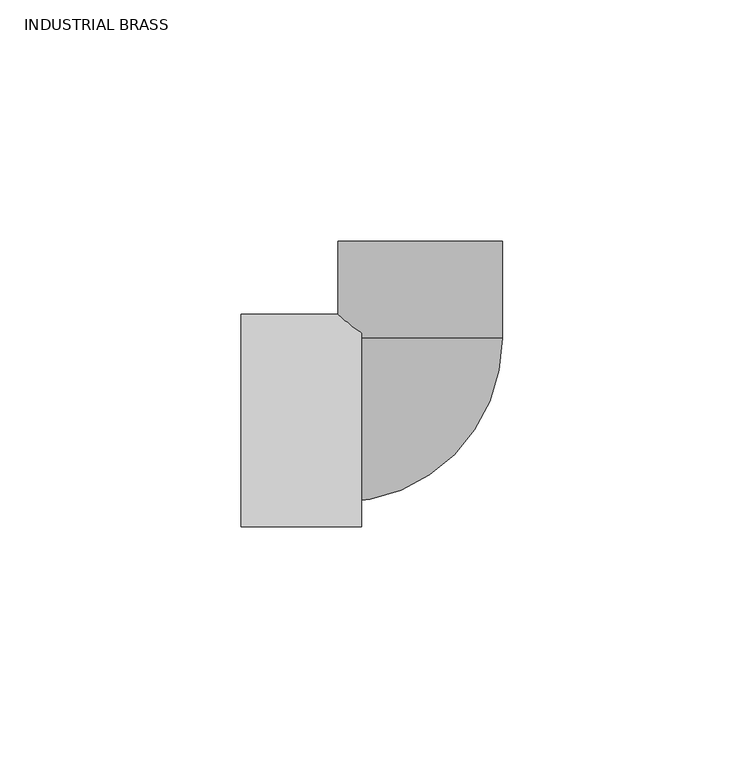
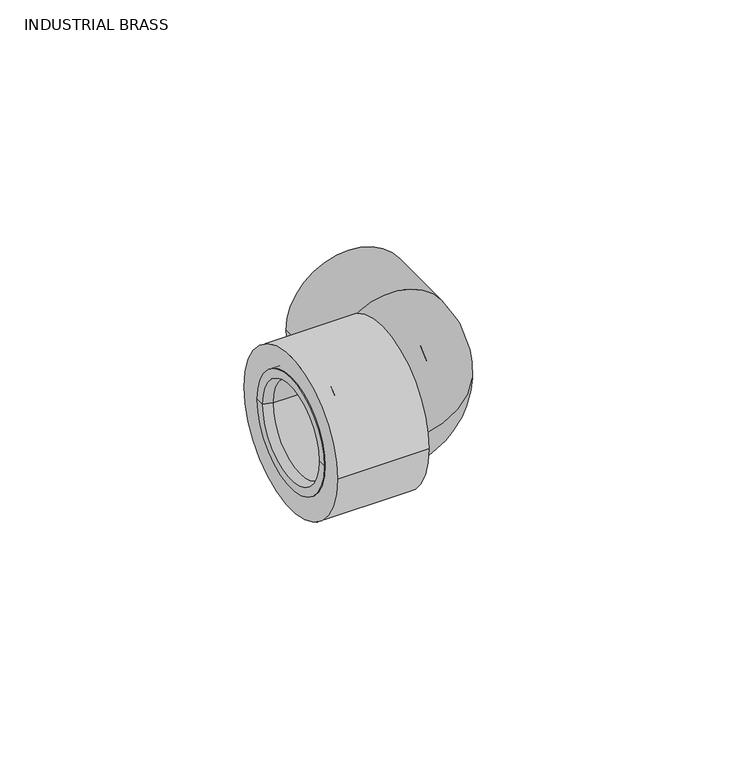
"""IFC4 building model written with IfcOpenShell, lengths in millimetres: valve geometry, Aquatherm - Elbow Transition PPR to F NPT : INDUSTRIAL BRASS."""

import ifcopenshell
import ifcopenshell.guid

model = None  # the IFC model being written
_history = None  # IfcOwnerHistory: only IFC2X3 demands one
_inside = {}  # id of a spatial element -> (the spatial element, [elements in it])
_under = {}  # id of a project, library or spatial element -> (it, [spatial elements below it])
_declared = {}  # id of a project -> (the project, [libraries it declares])
_typed = {}  # id of a type object -> (the type object, [elements of that type])
_made_of = {}  # id of a material, layer set ... -> (it, [elements and type objects made of it])


def new_model(schema):
    """Start an empty IFC model of exactly this schema.

    Asked for "IFC4X3", IfcOpenShell would pick the latest addendum, in which some entities
    have other attributes; the version numbers below select the first issue.
    IFC2X3 requires an IfcOwnerHistory on every rooted entity: one is made here for all.
    """
    global model, _history
    if schema == "IFC4X3":
        model = ifcopenshell.file(schema_version=(4, 3, 0, 0))
    else:
        model = ifcopenshell.file(schema=schema)
    _inside.clear()
    _under.clear()
    _declared.clear()
    _typed.clear()
    _made_of.clear()
    _history = None
    if model.schema == "IFC2X3":
        org = make("IfcOrganization", Name="unknown")
        user = make(
            "IfcPersonAndOrganization",
            ThePerson=make("IfcPerson", FamilyName="unknown"),
            TheOrganization=org,
        )
        app = make(
            "IfcApplication",
            ApplicationDeveloper=org,
            Version="unknown",
            ApplicationFullName="unknown",
            ApplicationIdentifier="unknown",
        )
        _history = make(
            "IfcOwnerHistory",
            OwningUser=user,
            OwningApplication=app,
            ChangeAction="ADDED",
            CreationDate=0,
        )
    return model


def make(cls, **values):
    """One entity of the class cls with the attributes given. An attribute that is None is left unset."""
    return model.create_entity(
        cls, **{name: value for name, value in values.items() if value is not None}
    )


def rooted(cls, **values):
    """An entity with a GlobalId (a new one), such as an element, a storey or a relation."""
    return make(cls, GlobalId=ifcopenshell.guid.new(), OwnerHistory=_history, **values)


def si_unit(unit_type, name, prefix=None):
    """IfcSIUnit, for example si_unit("LENGTHUNIT", "METRE", prefix="MILLI")."""
    return make("IfcSIUnit", UnitType=unit_type, Prefix=prefix, Name=name)


def assignment(units):
    """IfcUnitAssignment: the units of a project."""
    return None if units is None else make("IfcUnitAssignment", Units=units)


def point(xyz):
    """IfcCartesianPoint."""
    return None if xyz is None else make("IfcCartesianPoint", Coordinates=xyz)


def direction(xyz):
    """IfcDirection."""
    return None if xyz is None else make("IfcDirection", DirectionRatios=xyz)


def frame(location, z_axis=None, x_axis=None):
    """IfcAxis2Placement3D, a coordinate frame: its origin and axes. An axis left out is left unset."""
    return make(
        "IfcAxis2Placement3D",
        Location=point(location),
        Axis=direction(z_axis),
        RefDirection=direction(x_axis),
    )


def frame_2d(location, x_axis=None):
    """IfcAxis2Placement2D, a coordinate frame in the plane: its origin and x axis."""
    return make(
        "IfcAxis2Placement2D", Location=point(location), RefDirection=direction(x_axis)
    )


def origin():
    """The frame at (0, 0, 0) with its axes left unset."""
    return frame((0.0, 0.0, 0.0))


def origin_2d():
    """The frame at (0, 0) in the plane with its x axis left unset."""
    return frame_2d((0.0, 0.0))


def place(relative_to, where):
    """IfcLocalPlacement: puts the frame where relative to a parent placement (None: the world)."""
    return make(
        "IfcLocalPlacement", PlacementRelTo=relative_to, RelativePlacement=where
    )


def context(
    kind, dimensions, precision=None, world=None, true_north=None, identifier=None
):
    """IfcGeometricRepresentationContext, for example the 3D "Model" context."""
    return make(
        "IfcGeometricRepresentationContext",
        ContextIdentifier=identifier,
        ContextType=kind,
        CoordinateSpaceDimension=dimensions,
        Precision=precision,
        WorldCoordinateSystem=world,
        TrueNorth=true_north,
    )


def project(units=None, contexts=None):
    """IfcProject with its units and contexts."""
    return rooted(
        "IfcProject",
        Name="project",
        RepresentationContexts=contexts,
        UnitsInContext=assignment(units),
    )


def spatial(cls, under=None, at=None, **own):
    """A site, building, storey or space (cls), placed at a placement, below another one or the project."""
    s = rooted(cls, ObjectPlacement=at, **own)
    if under is not None:
        _under.setdefault(under.id(), (under, []))[1].append(s)
    return s


def polyline(points):
    """IfcPolyline through the points."""
    return make("IfcPolyline", Points=[point(p) for p in points])


def circle_curve(where, radius):
    """IfcCircle in the frame where."""
    return make("IfcCircle", Position=where, Radius=radius)


def ellipse_curve(where, semi_axis1, semi_axis2):
    """IfcEllipse in the frame where."""
    return make(
        "IfcEllipse", Position=where, SemiAxis1=semi_axis1, SemiAxis2=semi_axis2
    )


def trimmed(basis, trim1, trim2, sense, master):
    """IfcTrimmedCurve: the piece of a basis curve between two trims."""
    return make(
        "IfcTrimmedCurve",
        BasisCurve=basis,
        Trim1=trim1,
        Trim2=trim2,
        SenseAgreement=sense,
        MasterRepresentation=master,
    )


def segment(curve, same_sense, transition):
    """IfcCompositeCurveSegment."""
    return make(
        "IfcCompositeCurveSegment",
        Transition=transition,
        SameSense=same_sense,
        ParentCurve=curve,
    )


def composite_curve(segments, self_intersect=None):
    """IfcCompositeCurve: segments joined end to end."""
    return make("IfcCompositeCurve", Segments=segments, SelfIntersect=self_intersect)


def outline(outer, holes=None, kind="AREA"):
    """IfcArbitraryClosedProfileDef: a profile drawn as a closed curve; with holes, ...WithVoids."""
    if holes is None:
        return make("IfcArbitraryClosedProfileDef", ProfileType=kind, OuterCurve=outer)
    return make(
        "IfcArbitraryProfileDefWithVoids",
        ProfileType=kind,
        OuterCurve=outer,
        InnerCurves=holes,
    )


def extrude(swept, where, along, depth):
    """IfcExtrudedAreaSolid: the profile swept, set in the frame where, extruded along a direction by depth."""
    return make(
        "IfcExtrudedAreaSolid",
        SweptArea=swept,
        Position=where,
        ExtrudedDirection=direction(along),
        Depth=depth,
    )


def shape(context_of_items, identifier, shape_type, items):
    """IfcShapeRepresentation: the items that make up one representation, for example the "Body"."""
    return make(
        "IfcShapeRepresentation",
        ContextOfItems=context_of_items,
        RepresentationIdentifier=identifier,
        RepresentationType=shape_type,
        Items=items,
    )


def source(mapping_origin, context_of_items, identifier, shape_type, items):
    """IfcRepresentationMap: a shape defined once, which mapped items show again and again."""
    return make(
        "IfcRepresentationMap",
        MappingOrigin=mapping_origin,
        MappedRepresentation=shape(context_of_items, identifier, shape_type, items),
    )


def transform(
    local_origin,
    x_axis=None,
    y_axis=None,
    z_axis=None,
    scale=None,
    scale2=None,
    scale3=None,
    uniform=True,
):
    """IfcCartesianTransformationOperator3D, or its non-uniform kind. x_axis, y_axis, z_axis: its Axis1, 2, 3."""
    if uniform:
        return make(
            "IfcCartesianTransformationOperator3D",
            Axis1=direction(x_axis),
            Axis2=direction(y_axis),
            LocalOrigin=point(local_origin),
            Scale=scale,
            Axis3=direction(z_axis),
        )
    return make(
        "IfcCartesianTransformationOperator3DnonUniform",
        Axis1=direction(x_axis),
        Axis2=direction(y_axis),
        LocalOrigin=point(local_origin),
        Scale=scale,
        Axis3=direction(z_axis),
        Scale2=scale2,
        Scale3=scale3,
    )


def mapped(mapping_source, mapping_target):
    """IfcMappedItem: shows the shape of a source again, moved by a transform."""
    return make(
        "IfcMappedItem", MappingSource=mapping_source, MappingTarget=mapping_target
    )


def made_of(thing, what):
    """Note that an element or type object is made of a material, layer set ...; save() writes the relation."""
    if what is not None:
        _made_of.setdefault(what.id(), (what, []))[1].append(thing)
    return thing


def element(
    cls,
    number,
    at=None,
    inside=None,
    cuts=None,
    type_object=None,
    material=None,
    context=None,
    identifier="Body",
    shape_type=None,
    held_by="IfcProductDefinitionShape",
    body=None,
    shapes=None,
    **own,
):
    """One element of the class cls, such as IfcWall. Its Tag is "e" and its number.

    at: its placement. inside: the storey or other place that contains it. cuts: it is an
    opening in that element (IfcRelVoidsElement). A single representation is given by context,
    identifier, shape_type and body (its items); several are given by shapes. held_by: the class
    of the entity that holds the representations. save() writes the other relations.
    """
    e = rooted(cls, Tag="e%d" % number, ObjectPlacement=at, **own)
    if body is not None:
        shapes = [shape(context, identifier, shape_type, body)]
    if shapes is not None:
        e.Representation = make(held_by, Representations=shapes)
    if inside is not None:
        _inside.setdefault(inside.id(), (inside, []))[1].append(e)
    if cuts is not None:
        rooted(
            "IfcRelVoidsElement", RelatingBuildingElement=cuts, RelatedOpeningElement=e
        )
    if type_object is not None:
        _typed.setdefault(type_object.id(), (type_object, []))[1].append(e)
    return made_of(e, material)


def aggregate(whole, parts):
    """IfcRelAggregates: a whole, such as a stair, and the parts it consists of."""
    return rooted("IfcRelAggregates", RelatingObject=whole, RelatedObjects=parts)


def save(model, path):
    """Write the relations noted so far, then the file.

    IfcRelAggregates (storeys below a building ...), IfcRelContainedInSpatialStructure (elements
    in a storey), IfcRelDefinesByType, IfcRelAssociatesMaterial and IfcRelDeclares: one each for
    every whole, place, type object, material and project.
    """
    for whole, parts in _under.values():
        aggregate(whole, parts)
    for where, things in _inside.values():
        rooted(
            "IfcRelContainedInSpatialStructure",
            RelatedElements=things,
            RelatingStructure=where,
        )
    for kind, things in _typed.values():
        rooted("IfcRelDefinesByType", RelatedObjects=things, RelatingType=kind)
    for what, things in _made_of.values():
        rooted("IfcRelAssociatesMaterial", RelatedObjects=things, RelatingMaterial=what)
    for by, libraries in _declared.values():
        rooted("IfcRelDeclares", RelatingContext=by, RelatedDefinitions=libraries)
    model.write(path)


def plane_surface(at):
    """IfcPlane: the flat surface through the origin of the frame at, square to its z axis."""
    return make("IfcPlane", Position=at)


def cylinder_surface(at, radius):
    """IfcCylindricalSurface: all points at the distance radius from the z axis of the frame at."""
    return make("IfcCylindricalSurface", Position=at, Radius=radius)


def revolved_surface(curve, axis_point, axis_direction):
    """IfcSurfaceOfRevolution: the curve turned about the line through axis_point along axis_direction."""
    return make(
        "IfcSurfaceOfRevolution",
        SweptCurve=make("IfcArbitraryOpenProfileDef", ProfileType="CURVE", Curve=curve),
        AxisPosition=make("IfcAxis1Placement", Location=point(axis_point), Axis=direction(axis_direction)),
    )


def advanced_brep(points, edges, surfaces, faces):
    """IfcAdvancedBrep: a solid bounded by faces that lie on surfaces and meet in shared edges.

    An edge is (start, end): straight between two places in points (the first is 0);
    or (start, end, curve); or (start, end, curve, False) where it runs against its curve.
    A face is (place in surfaces, loops), or (place, loops, False) where it looks against
    its surface's normal. A loop lists edges by number (the first is 1), with a minus sign
    where the edge is run from its end to its start. The first loop is the outer one.
    """
    corners = [point(p) for p in points]
    vertices = [make("IfcVertexPoint", VertexGeometry=c) for c in corners]
    made = []
    for start, end, *more in edges:
        made.append(
            make(
                "IfcEdgeCurve",
                EdgeStart=vertices[start],
                EdgeEnd=vertices[end],
                EdgeGeometry=more[0] if more else make("IfcPolyline", Points=[corners[start], corners[end]]),
                SameSense=more[1] if len(more) > 1 else True,
            )
        )
    hull = []
    for where, loops, *sense in faces:
        bounds = []
        for j, loop in enumerate(loops):
            ring = [make("IfcOrientedEdge", EdgeElement=made[abs(k) - 1], Orientation=k > 0) for k in loop]
            bounds.append(
                make(
                    "IfcFaceOuterBound" if j == 0 else "IfcFaceBound",
                    Bound=make("IfcEdgeLoop", EdgeList=ring),
                    Orientation=True,
                )
            )
        hull.append(make("IfcAdvancedFace", Bounds=bounds, FaceSurface=surfaces[where], SameSense=sense[0] if sense else True))
    return make("IfcAdvancedBrep", Outer=make("IfcClosedShell", CfsFaces=hull))


def industrial_brass_f2d8ff5a(model_context):
    return source(origin(), model_context, "Body", "SolidModel", [
        advanced_brep(
        [(-24.384, -12.7, 0.0), (-24.384, 12.7, 0.0), (-34.5043125, 12.7, 0.0), (-34.5043125, -12.7, 0.0), (-24.384, -13.49375, 0.0), (-24.384, 13.49375, 0.0), (-21.209, -13.49375, 0.0), (-21.209, 13.49375, 0.0), (-21.209, -9.525, 0.0), (-21.209, 9.525, 0.0), (-18.034, -9.525, 0.0), (-18.034, 9.525, 0.0), (-18.034, -15.875, 0.0), (-18.034, 15.875, 0.0), (-37.084, -15.875, 0.0), (-37.084, 15.875, 0.0), (-37.084, -13.49375, 0.0), (-37.084, 13.49375, 0.0)],
        [
            (0, 1, circle_curve(frame((-24.384, 0.0, 0.0), z_axis=(1.0, 0.0, 0.0), x_axis=(0.0, 1.0, 0.0)), 12.7)),
            (1, 2),
            (2, 3, circle_curve(frame((-34.5043125, 0.0, 0.0), z_axis=(-1.0, 0.0, 0.0), x_axis=(0.0, 1.0, 0.0)), 12.7)),
            (3, 0),
            (1, 0, circle_curve(frame((-24.384, 0.0, 0.0), z_axis=(1.0, 0.0, 0.0), x_axis=(0.0, 1.0, 0.0)), 12.7)),
            (3, 2, circle_curve(frame((-34.5043125, 0.0, 0.0), z_axis=(-1.0, 0.0, 0.0), x_axis=(0.0, 1.0, 0.0)), 12.7)),
            (4, 5, circle_curve(frame((-24.384, 0.0, 0.0), z_axis=(1.0, 0.0, 0.0), x_axis=(0.0, 1.0, 0.0)), 13.49375)),
            (5, 1),
            (0, 4),
            (5, 4, circle_curve(frame((-24.384, 0.0, 0.0), z_axis=(1.0, 0.0, 0.0), x_axis=(0.0, 1.0, 0.0)), 13.49375)),
            (6, 7, circle_curve(frame((-21.209, 0.0, 0.0), z_axis=(1.0, 0.0, 0.0), x_axis=(0.0, 1.0, 0.0)), 13.49375)),
            (7, 5),
            (4, 6),
            (7, 6, circle_curve(frame((-21.209, 0.0, 0.0), z_axis=(1.0, 0.0, 0.0), x_axis=(0.0, 1.0, 0.0)), 13.49375)),
            (8, 9, circle_curve(frame((-21.209, 0.0, 0.0), z_axis=(1.0, 0.0, 0.0), x_axis=(0.0, 1.0, 0.0)), 9.525)),
            (9, 7),
            (6, 8),
            (9, 8, circle_curve(frame((-21.209, 0.0, 0.0), z_axis=(1.0, 0.0, 0.0), x_axis=(0.0, 1.0, 0.0)), 9.525)),
            (10, 11, circle_curve(frame((-18.034, 0.0, 0.0), z_axis=(1.0, 0.0, 0.0), x_axis=(0.0, 1.0, 0.0)), 9.525)),
            (11, 9),
            (8, 10),
            (11, 10, circle_curve(frame((-18.034, 0.0, 0.0), z_axis=(1.0, 0.0, 0.0), x_axis=(0.0, 1.0, 0.0)), 9.525)),
            (12, 13, circle_curve(frame((-18.034, 0.0, 0.0), z_axis=(1.0, 0.0, 0.0), x_axis=(0.0, 1.0, 0.0)), 15.875)),
            (13, 11),
            (10, 12),
            (13, 12, circle_curve(frame((-18.034, 0.0, 0.0), z_axis=(1.0, 0.0, 0.0), x_axis=(0.0, 1.0, 0.0)), 15.875)),
            (14, 15, circle_curve(frame((-37.084, 0.0, 0.0), z_axis=(1.0, 0.0, 0.0), x_axis=(0.0, 1.0, 0.0)), 15.875)),
            (15, 13),
            (12, 14),
            (15, 14, circle_curve(frame((-37.084, 0.0, 0.0), z_axis=(1.0, 0.0, 0.0), x_axis=(0.0, 1.0, 0.0)), 15.875)),
            (16, 17, circle_curve(frame((-37.084, 0.0, 0.0), z_axis=(1.0, 0.0, 0.0), x_axis=(0.0, 1.0, 0.0)), 13.49375)),
            (17, 15),
            (14, 16),
            (17, 16, circle_curve(frame((-37.084, 0.0, 0.0), z_axis=(1.0, 0.0, 0.0), x_axis=(0.0, 1.0, 0.0)), 13.49375)),
            (2, 17),
            (16, 3),
        ],
        [
            revolved_surface(polyline([(-34.5043125, 12.7, 0.0), (-24.384, 12.7, 0.0)]), (-38.9172251, 0.0, 0.0), (-1.0, 0.0, 0.0)),
            plane_surface(frame((-24.384, 0.0, 0.0), z_axis=(1.0, 0.0, 0.0), x_axis=(0.0, 1.0, 0.0))),
            revolved_surface(polyline([(-24.384, 13.49375, 0.0), (-21.209, 13.49375, 0.0)]), (-38.9172251, 0.0, 0.0), (-1.0, 0.0, 0.0)),
            plane_surface(frame((-21.209, 0.0, 0.0), z_axis=(-1.0, 0.0, 0.0), x_axis=(0.0, 1.0, 0.0))),
            revolved_surface(polyline([(-21.209, 9.525, 0.0), (-18.034, 9.525, 0.0)]), (-38.9172251, 0.0, 0.0), (-1.0, 0.0, 0.0)),
            plane_surface(frame((-18.034, 0.0, 0.0), z_axis=(1.0, 0.0, 0.0), x_axis=(0.0, 1.0, 0.0))),
            cylinder_surface(frame((-38.9172251, 0.0, 0.0), z_axis=(-1.0, 0.0, 0.0), x_axis=(0.0, 1.0, 0.0)), 15.875),
            plane_surface(frame((-37.084, 0.0, 0.0), z_axis=(-1.0, 0.0, 0.0), x_axis=(0.0, 1.0, 0.0))),
            revolved_surface(polyline([(-37.084, 13.49375, 0.0), (-34.5043125, 12.7, 0.0)]), (-38.9172251, 0.0, 0.0), (-1.0, 0.0, 0.0)),
        ],
        [
            (0, [[1, 2, 3, 4]]),
            (0, [[5, -4, 6, -2]]),
            (1, [[7, 8, -1, 9]]),
            (1, [[10, -9, -5, -8]]),
            (2, [[11, 12, -7, 13]]),
            (2, [[14, -13, -10, -12]]),
            (3, [[15, 16, -11, 17]]),
            (3, [[18, -17, -14, -16]]),
            (4, [[19, 20, -15, 21]]),
            (4, [[22, -21, -18, -20]]),
            (5, [[23, 24, -19, 25]]),
            (5, [[26, -25, -22, -24]]),
            (6, [[27, 28, -23, 29]]),
            (6, [[30, -29, -26, -28]]),
            (7, [[31, 32, -27, 33]]),
            (7, [[34, -33, -30, -32]]),
            (8, [[-3, 35, -31, 36]]),
            (8, [[-6, -36, -34, -35]]),
        ],
    ),
        advanced_brep(
        [(17.018, 17.018, 0.0), (-17.018, 17.018, 0.0), (6.35, 17.018, 0.0), (-6.35, 17.018, 0.0), (-17.018, -17.018, 0.0), (-17.018, -6.35, 0.0), (-17.018, 6.35, 0.0)],
        [
            (0, 1, circle_curve(frame((0.0, 17.018, 0.0), z_axis=(0.0, 1.0, 0.0), x_axis=(-1.0, 0.0, 0.0)), 17.018)),
            (1, 0, circle_curve(frame((0.0, 17.018, 0.0), z_axis=(0.0, 1.0, 0.0), x_axis=(-1.0, 0.0, 0.0)), 17.018)),
            (2, 3, circle_curve(frame((0.0, 17.018, 0.0), z_axis=(0.0, -1.0, 0.0), x_axis=(-1.0, 0.0, 0.0)), 6.35)),
            (3, 2, circle_curve(frame((0.0, 17.018, 0.0), z_axis=(0.0, -1.0, 0.0), x_axis=(-1.0, 0.0, 0.0)), 6.35)),
            (4, 1, circle_curve(frame((-17.018, 0.0, 0.0), z_axis=(-1.0, 0.0, 0.0), x_axis=(0.0, 1.0, 0.0)), 17.018)),
            (1, 4, circle_curve(frame((-17.018, 0.0, 0.0), z_axis=(-1.0, 0.0, 0.0), x_axis=(0.0, 1.0, 0.0)), 17.018)),
            (5, 6, circle_curve(frame((-17.018, 0.0, 0.0), z_axis=(1.0, 0.0, 0.0), x_axis=(0.0, 1.0, 0.0)), 6.35)),
            (6, 5, circle_curve(frame((-17.018, 0.0, 0.0), z_axis=(1.0, 0.0, 0.0), x_axis=(0.0, 1.0, 0.0)), 6.35)),
            (0, 4, circle_curve(frame((-17.018, 17.018, 0.0), z_axis=(0.0, 0.0, -1.0), x_axis=(1.0, 0.0, 0.0)), 34.036)),
            (6, 3, circle_curve(frame((-17.018, 17.018, 0.0), z_axis=(0.0, 0.0, 1.0), x_axis=(1.0, 0.0, 0.0)), 10.668)),
            (2, 5, circle_curve(frame((-17.018, 17.018, 0.0), z_axis=(0.0, 0.0, -1.0), x_axis=(1.0, 0.0, 0.0)), 23.368)),
        ],
        [
            plane_surface(frame((-17.018, 17.018, 41.9103543), z_axis=(0.0, 1.0, 0.0), x_axis=(1.0, 0.0, 0.0))),
            plane_surface(frame((-17.018, 17.018, 41.9103543), z_axis=(-1.0, 0.0, 0.0), x_axis=(0.0, -1.0, 0.0))),
            revolved_surface(trimmed(ellipse_curve(frame((0.0, 17.018, 0.0), z_axis=(0.0, 1.0, 0.0), x_axis=(-1.0, 0.0, 0.0)), 17.018, 17.018), [point((17.018, 17.018, 0.0))], [point((-17.018, 17.018, 0.0))], True, "CARTESIAN"), (-17.018, 17.018, 41.9103543), (0.0, 0.0, -1.0)),
            revolved_surface(trimmed(ellipse_curve(frame((0.0, 17.018, 0.0), z_axis=(0.0, 1.0, 0.0), x_axis=(-1.0, 0.0, 0.0)), 17.018, 17.018), [point((-17.018, 17.018, 0.0))], [point((17.018, 17.018, 0.0))], True, "CARTESIAN"), (-17.018, 17.018, 41.9103543), (0.0, 0.0, -1.0)),
            revolved_surface(trimmed(ellipse_curve(frame((0.0, 17.018, 0.0), z_axis=(0.0, -1.0, 0.0), x_axis=(-1.0, 0.0, 0.0)), 6.35, 6.35), [point((6.35, 17.018, 0.0))], [point((-6.35, 17.018, 0.0))], True, "CARTESIAN"), (-17.018, 17.018, 41.9103543), (0.0, 0.0, -1.0)),
            revolved_surface(trimmed(ellipse_curve(frame((0.0, 17.018, 0.0), z_axis=(0.0, -1.0, 0.0), x_axis=(-1.0, 0.0, 0.0)), 6.35, 6.35), [point((-6.35, 17.018, 0.0))], [point((6.35, 17.018, 0.0))], True, "CARTESIAN"), (-17.018, 17.018, 41.9103543), (0.0, 0.0, -1.0)),
        ],
        [
            (0, [[1, 2], [3, 4]]),
            (1, [[5, 6], [7, 8]]),
            (2, [[-1, 9, -6]]),
            (3, [[-9, -2, -5]]),
            (4, [[10, -3, 11, -8]]),
            (5, [[-11, -4, -10, -7]]),
        ],
    ),
        extrude(outline(composite_curve([segment(trimmed(circle_curve(origin_2d(), 17.018), [point((0.0, 17.018))], [point((0.0, -17.018))], False, "CARTESIAN"), True, "CONTINUOUS"), segment(trimmed(circle_curve(origin_2d(), 17.018), [point((0.0, -17.018))], [point((0.0, 17.018))], False, "CARTESIAN"), True, "CONTINUOUS")], self_intersect=False), holes=[composite_curve([segment(trimmed(circle_curve(origin_2d(), 10.033), [point((0.0, 10.033))], [point((0.0, -10.033))], True, "CARTESIAN"), True, "CONTINUOUS"), segment(trimmed(circle_curve(origin_2d(), 10.033), [point((0.0, -10.033))], [point((0.0, 10.033))], True, "CARTESIAN"), True, "CONTINUOUS")], self_intersect=False)]), frame((0.0, 17.018, 0.0), z_axis=(0.0, 1.0, 0.0), x_axis=(0.0, 0.0, 1.0)), (0.0, 0.0, 1.0), 20.066),
        extrude(outline(composite_curve([segment(trimmed(circle_curve(origin_2d(), 21.971), [point((-21.971, 0.0))], [point((21.971, 0.0))], False, "CARTESIAN"), True, "CONTINUOUS"), segment(trimmed(circle_curve(origin_2d(), 21.971), [point((21.971, 0.0))], [point((-21.971, 0.0))], False, "CARTESIAN"), True, "CONTINUOUS")], self_intersect=False), holes=[composite_curve([segment(trimmed(circle_curve(origin_2d(), 15.875), [point((-15.875, 0.0))], [point((15.875, 0.0))], True, "CARTESIAN"), True, "CONTINUOUS"), segment(trimmed(circle_curve(origin_2d(), 15.875), [point((15.875, 0.0))], [point((-15.875, 0.0))], True, "CARTESIAN"), True, "CONTINUOUS")], self_intersect=False)]), frame((-37.084, 0.0, 0.0), z_axis=(1.0, 0.0, 0.0), x_axis=(0.0, 1.0, 0.0)), (0.0, 0.0, 1.0), 24.892),
    ])


if __name__ == "__main__":
    model = new_model("IFC4")
    model_context = context("Model", 3, world=origin())
    ifc_project = project(units=[si_unit("LENGTHUNIT", "METRE", prefix="MILLI")], contexts=[model_context])
    site = spatial("IfcSite", under=ifc_project)
    building = spatial("IfcBuilding", under=site)
    placement = place(None, origin())
    industrial_brass_shape = industrial_brass_f2d8ff5a(model_context)
    element("IfcValve", 1, ObjectType="Aquatherm - Elbow Transition PPR to F NPT : INDUSTRIAL BRASS", at=placement, inside=building, context=model_context, shape_type="MappedRepresentation", body=[
        mapped(industrial_brass_shape, transform((0.0, 0.0, 0.0), x_axis=(1.0, 0.0, 0.0), y_axis=(0.0, 1.0, 0.0), z_axis=(0.0, 0.0, 1.0))),
    ])
    save(model, "model.ifc")
